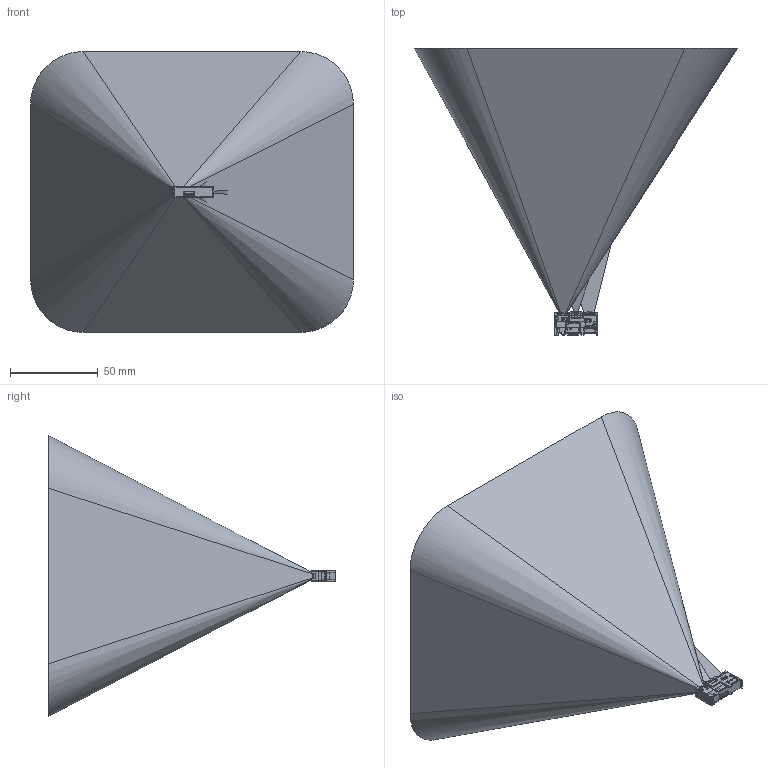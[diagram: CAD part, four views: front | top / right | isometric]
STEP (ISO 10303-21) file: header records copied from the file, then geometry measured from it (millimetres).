
FILE_DESCRIPTION((''),'2;1');
FILE_NAME('R-40_GAKAKU_ASM_ASM','2015-11-18T',('skomi0303'),(''),'PRO/ENGINEER BY PARAMETRIC TECHNOLOGY CORPORATION, 2014090','PRO/ENGINEER BY PARAMETRIC TECHNOLOGY CORPORATION, 2014090','');
FILE_SCHEMA(('CONFIG_CONTROL_DESIGN'));
Products named in the file (14): R-40_CAMERA_BODY_ES_CAVI_43; R-40_PCB_LED_LIGHT_C_42; R-40_LED_LIGHT_XBD_9; R-40_C-MOS_PCB_ASM_29_ASM; R-40_CONNECT_PCB_C_33; R-40_LED_AIM_XPC_11; 17FXVL-RSM1-GAN-TF_HF__4; R-40_CONNECT_PCB_ASM_30_ASM; R-40_SPACER_75; R-40_PCB_ASM_25_ASM; R-40_MASTER_LENS_40; R-40_MASK_LENS_DEMO_3; R-40_ASM_102_ASM; R-40_GAKAKU_ASM_ASM
Assembly tree (13 placements, depth 5):
  R-40_GAKAKU_ASM_ASM
    R-40_ASM_102_ASM
      R-40_CAMERA_BODY_ES_CAVI_43
      R-40_PCB_ASM_25_ASM
        R-40_C-MOS_PCB_ASM_29_ASM
          R-40_PCB_LED_LIGHT_C_42
          R-40_LED_LIGHT_XBD_9
        R-40_CONNECT_PCB_ASM_30_ASM
          R-40_CONNECT_PCB_C_33
          R-40_LED_AIM_XPC_11
          17FXVL-RSM1-GAN-TF_HF__4
        R-40_SPACER_75
      R-40_MASTER_LENS_40
      R-40_MASK_LENS_DEMO_3
Bounding box: 184 x 163.43 x 160 mm (x, y, z)
Surface area: 144002.7 mm2
Topology: 8 solids, 14 shells, 1704 faces, 4384 edges, 2654 vertices
Faces by surface type: plane 851, cylinder 464, bspline 149, cone 106, torus 81, sphere 47, extrusion 6
Entity records: 58261 total; most frequent: CARTESIAN_POINT 18085, ORIENTED_EDGE 8644, DIRECTION 7862, EDGE_CURVE 4326, VECTOR 2764, LINE 2758, VERTEX_POINT 2654, AXIS2_PLACEMENT_3D 2549
